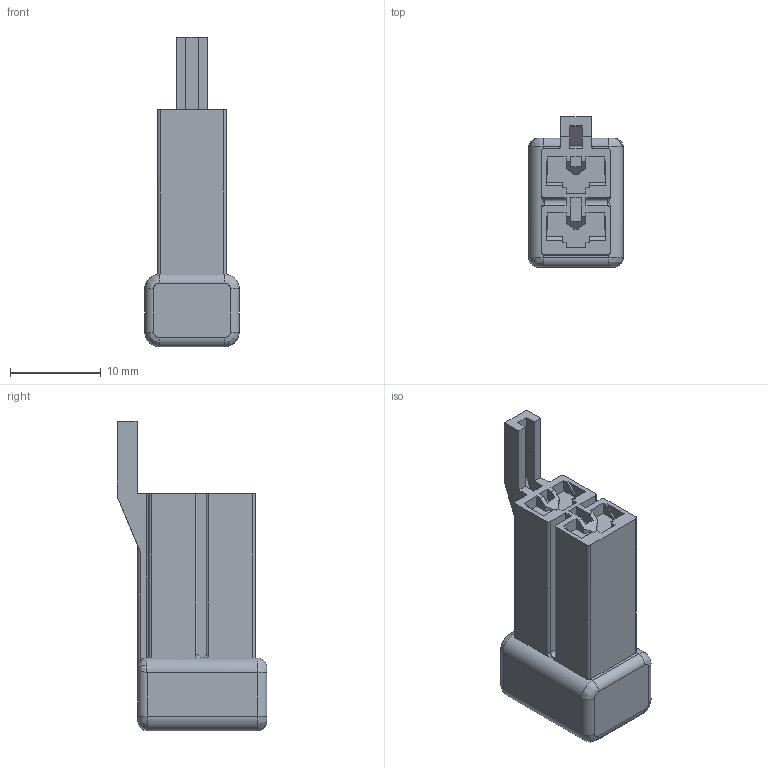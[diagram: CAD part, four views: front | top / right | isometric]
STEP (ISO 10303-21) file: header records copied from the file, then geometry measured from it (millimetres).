
FILE_DESCRIPTION((''),'2;1');
FILE_NAME('C-2-1318920-1','2015-05-28T',('workeradm'),('Tyco Electronics Ltd.'),'PRO/ENGINEER BY PARAMETRIC TECHNOLOGY CORPORATION, 2014090','PRO/ENGINEER BY PARAMETRIC TECHNOLOGY CORPORATION, 2014090','');
FILE_SCHEMA(('AUTOMOTIVE_DESIGN { 1 0 10303 214 1 1 1 1 }'));
Length unit declared in the file: millimetre
Products named in the file (1): C-2-1318920-1
Bounding box: 10.4 x 16.5 x 34.1 mm (x, y, z)
Volume: 2680.2 mm3; surface area: 1810.2 mm2
Topology: 1 solids, 1 shells, 203 faces, 551 edges, 358 vertices
Faces by surface type: plane 163, cylinder 28, bspline 10, torus 2
Entity records: 6847 total; most frequent: CARTESIAN_POINT 1568, ORIENTED_EDGE 1102, DIRECTION 987, EDGE_CURVE 551, VECTOR 473, LINE 473, VERTEX_POINT 358, AXIS2_PLACEMENT_3D 257
